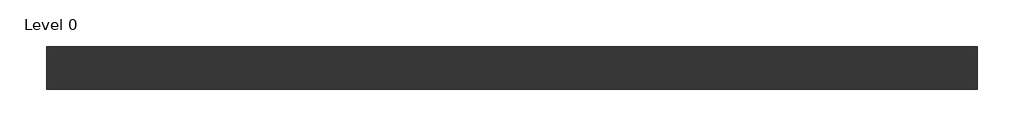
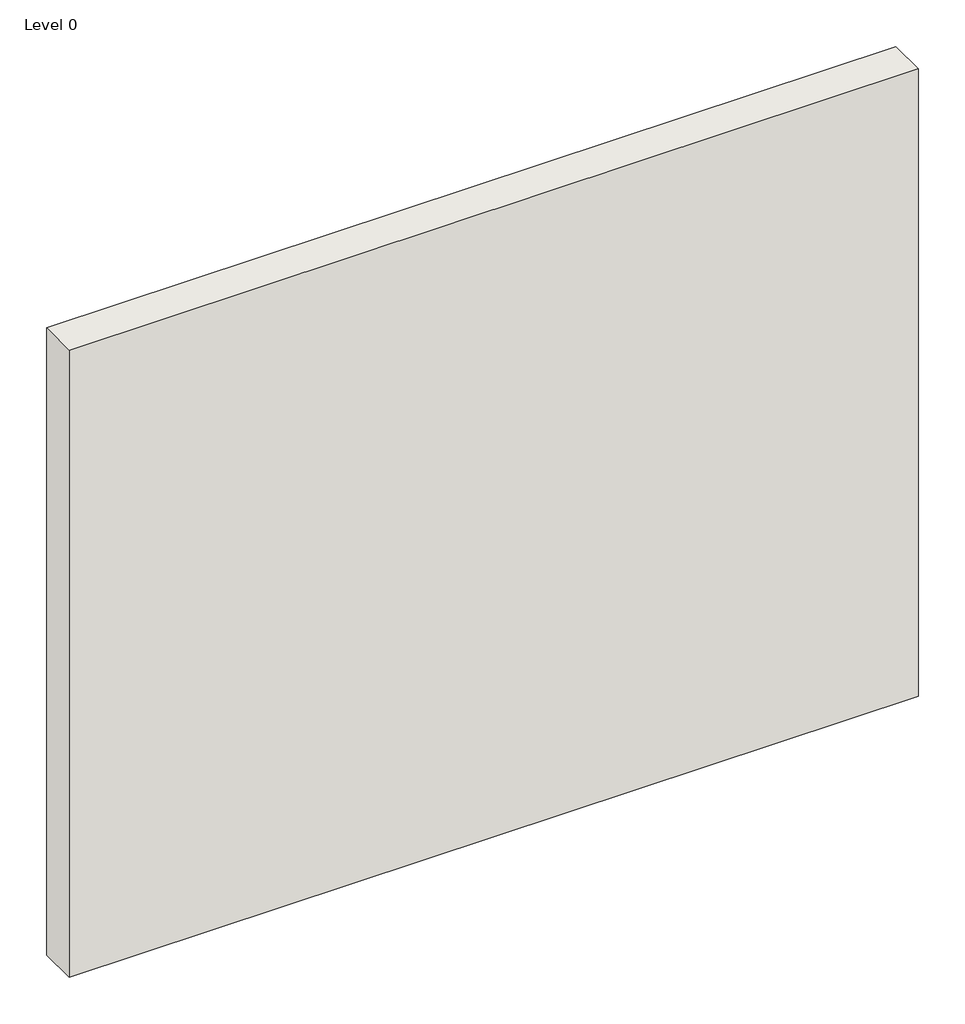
# One storey: 1 wall.
"""IFC4 building model written with IfcOpenShell, lengths in millimetres."""

from ifc_helpers import new_model, si_unit, origin, origin_with_axes, place, context, project, spatial, polyline, outline, extrude, element, save

model = new_model("IFC4")

# Units and contexts
model_context = context("Model", 3, world=origin())
ifc_project = project(units=[si_unit("LENGTHUNIT", "METRE", prefix="MILLI")], contexts=[model_context])

# Site, building, storey
site = spatial("IfcSite", under=ifc_project)
building = spatial("IfcBuilding", under=site)
storey = spatial("IfcBuildingStorey", under=building, Name="Level 0", Elevation=0.0)

# Wall
placement = place(None, origin())
element("IfcWall", 1, ObjectType="A316009 - GypWall QUIET SF", at=placement, inside=storey, context=model_context, shape_type="SweptSolid", body=[
    extrude(outline(polyline([(2116.0807354, 520.2205641), (-1083.9192646, 520.2205641), (-1083.9192646, 667.2205641), (2116.0807354, 667.2205641), (2116.0807354, 520.2205641)])), origin_with_axes(), (0.0, 0.0, 1.0), 2500.0),
])

save(model, "model.ifc")
